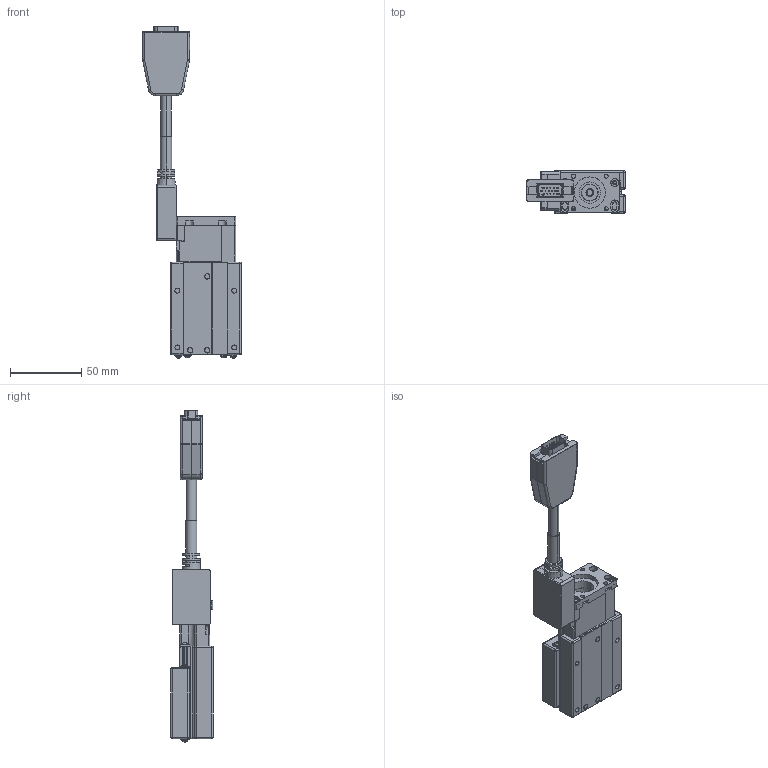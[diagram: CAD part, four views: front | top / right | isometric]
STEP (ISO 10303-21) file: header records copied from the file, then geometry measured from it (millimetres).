
FILE_DESCRIPTION (( 'STEP AP203' ), '1' );
FILE_NAME ('CXS5030(28框無馬達).STEP', '2023-12-25T06:10:34', ( '' ), ( '' ), 'SwSTEP 2.0', 'SolidWorks 2019', '' );
FILE_SCHEMA (( 'CONFIG_CONTROL_DESIGN' ));
Length unit declared in the file: millimetre
Products named in the file (4): Group2^CXS5030(28框無馬達)_defeature_GMT; Group1^CXS5030(28框無馬達)_defeature_GMT; CXS5030(28框無馬達); CXS50-G28_GMT
Assembly tree (3 placements, depth 2):
  CXS5030(28框無馬達)
    Group1^CXS5030(28框無馬達)_defeature_GMT
    Group2^CXS5030(28框無馬達)_defeature_GMT
    CXS50-G28_GMT
Bounding box: 69.5 x 30 x 233.59 mm (x, y, z)
Volume: 108317.2 mm3; surface area: 60236.6 mm2
Topology: 9 solids, 9 shells, 5326 faces, 13751 edges, 8702 vertices
Faces by surface type: plane 2848, bspline 1332, cylinder 870, cone 131, sphere 88, torus 57
Entity records: 179939 total; most frequent: CARTESIAN_POINT 60576, ORIENTED_EDGE 27310, DIRECTION 19760, EDGE_CURVE 13655, VERTEX_POINT 8702, LINE 7948, VECTOR 7948, AXIS2_PLACEMENT_3D 5906
